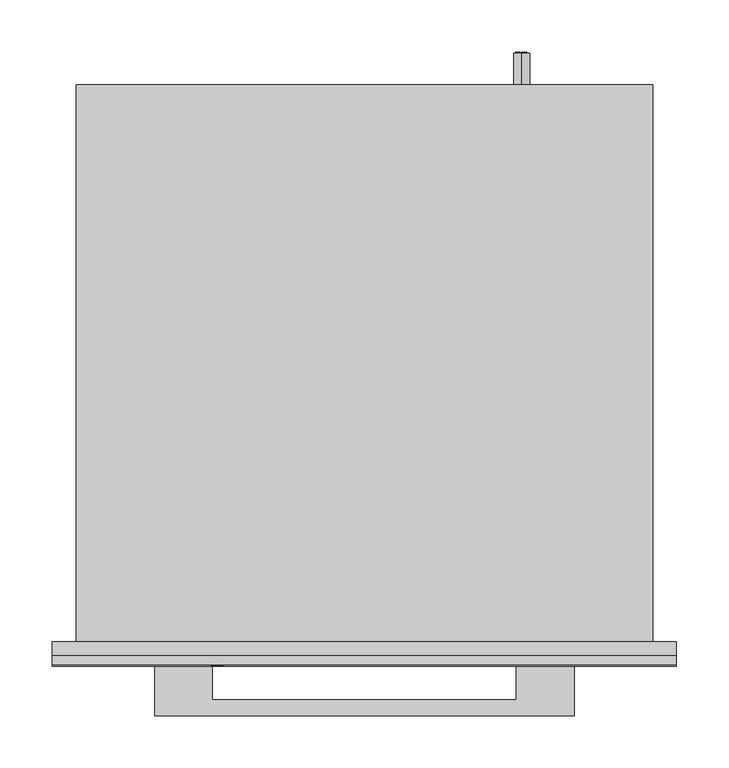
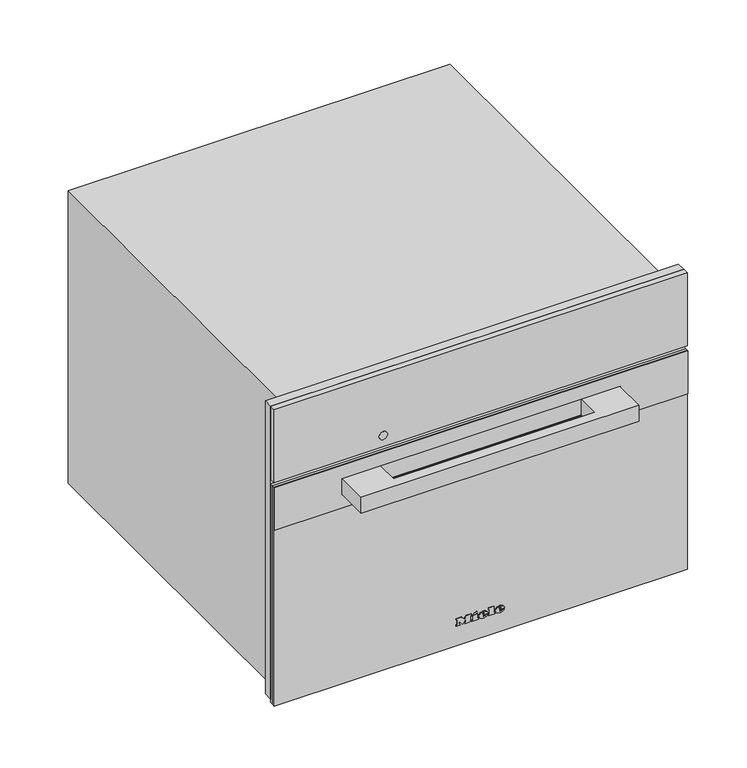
"""IFC4 building model written with IfcOpenShell, lengths in millimetres: proxy geometry, 11134580_I_DGM7640_EDST-CLST : 23764044_I_11134580_DGM7640_EDST-CLST."""

from ifc_helpers import new_model, si_unit, point, frame, frame_2d, origin, place, context, project, spatial, polyline, circle_curve, ellipse_curve, trimmed, segment, composite_curve, outline, extrude, faceted_brep, source, transform, mapped, element, save
from ifc_brep_helpers import plane_surface, cylinder_surface, revolved_surface, extruded_surface, advanced_brep


def specialty_equipment_aa93c1d3(model_context):
    return source(origin(), model_context, "Body", "SolidModel", [
        extrude(outline(polyline([(455.0, 297.5), (455.0, -297.5), (9.0, -297.5), (9.0, -272.5), (344.0, -272.5), (344.0, 272.5), (9.0, 272.5), (9.0, 297.5), (455.0, 297.5)])), frame((0.0, -13.0, 0.0), z_axis=(0.0, 1.0, 0.0), x_axis=(0.0, 0.0, 1.0)), (0.0, 0.0, 1.0), 13.0),
        advanced_brep(
        [(150.0, 561.0, 410.5), (150.0, 561.0, 395.5), (144.4098301, 561.0, 398.0), (148.5, 561.0, 398.0), (148.5, 561.0, 408.0), (147.4955303, 561.0, 408.0), (147.4955303, 561.0, 399.0), (144.0315043, 561.0, 399.0), (144.0315043, 561.0, 398.4582978), (155.0, 561.0, 398.0), (155.0, 561.0, 408.0), (150.0, 561.0, 408.0), (150.0, 561.0, 407.0), (154.0, 561.0, 407.0), (154.0, 561.0, 403.5), (151.0, 561.0, 403.5), (151.0, 561.0, 402.5), (154.0, 561.0, 402.5), (154.0, 561.0, 399.0), (150.0, 561.0, 399.0), (150.0, 561.0, 398.0), (150.0, 531.0, 395.5), (150.0, 531.0, 410.5), (155.0, 562.0, 408.0), (155.0, 562.0, 398.0), (150.0, 562.0, 398.0), (150.0, 562.0, 399.0), (154.0, 562.0, 399.0), (154.0, 562.0, 402.5), (151.0, 562.0, 402.5), (151.0, 562.0, 403.5), (154.0, 562.0, 403.5), (154.0, 562.0, 407.0), (150.0, 562.0, 407.0), (150.0, 562.0, 408.0), (148.5, 562.0, 398.0), (144.0315043, 562.0, 398.0), (144.0315043, 562.0, 399.0), (147.4955303, 562.0, 399.0), (147.4955303, 562.0, 408.0), (148.5, 562.0, 408.0), (144.0315043, 561.0, 398.0)],
        [
            (0, 1, circle_curve(frame((150.0, 561.0, 403.0), z_axis=(0.0, 1.0, 0.0), x_axis=(0.0, 0.0, 1.0)), 7.5)),
            (1, 2, circle_curve(frame((150.0, 561.0, 403.0), z_axis=(0.0, 1.0, 0.0), x_axis=(0.0, 0.0, 1.0)), 7.5)),
            (2, 3),
            (3, 4),
            (4, 5),
            (5, 6),
            (6, 7),
            (7, 8),
            (8, 0, circle_curve(frame((150.0, 561.0, 403.0), z_axis=(0.0, 1.0, 0.0), x_axis=(0.0, 0.0, 1.0)), 7.5)),
            (9, 10),
            (10, 11),
            (11, 12),
            (12, 13),
            (13, 14),
            (14, 15),
            (15, 16),
            (16, 17),
            (17, 18),
            (18, 19),
            (19, 20),
            (20, 9),
            (21, 22, circle_curve(frame((150.0, 531.0, 403.0), z_axis=(0.0, -1.0, 0.0), x_axis=(0.0, 0.0, 1.0)), 7.5)),
            (22, 21, circle_curve(frame((150.0, 531.0, 403.0), z_axis=(0.0, -1.0, 0.0), x_axis=(0.0, 0.0, 1.0)), 7.5)),
            (0, 22),
            (21, 1),
            (8, 2, circle_curve(frame((150.0, 561.0, 403.0), z_axis=(0.0, -1.0, 0.0), x_axis=(0.0, 0.0, 1.0)), 7.5)),
            (23, 24),
            (24, 25),
            (25, 26),
            (26, 27),
            (27, 28),
            (28, 29),
            (29, 30),
            (30, 31),
            (31, 32),
            (32, 33),
            (33, 34),
            (34, 23),
            (35, 36),
            (36, 37),
            (37, 38),
            (38, 39),
            (39, 40),
            (40, 35),
            (8, 41),
            (41, 2),
            (23, 10),
            (9, 24),
            (20, 25),
            (19, 26),
            (18, 27),
            (17, 28),
            (16, 29),
            (15, 30),
            (14, 31),
            (13, 32),
            (12, 33),
            (11, 34),
            (35, 3),
            (41, 36),
            (7, 37),
            (6, 38),
            (5, 39),
            (4, 40),
        ],
        [
            plane_surface(frame((150.0, 561.0, 410.5), z_axis=(0.0, 1.0, 0.0), x_axis=(1.0, 0.0, 0.0))),
            plane_surface(frame((150.0, 531.0, 410.5), z_axis=(0.0, -1.0, 0.0), x_axis=(-1.0, 0.0, 0.0))),
            cylinder_surface(frame((150.0, 561.0, 403.0), z_axis=(0.0, -1.0, 0.0), x_axis=(0.0, 0.0, 1.0)), 7.5),
            plane_surface(frame((155.0, 562.0, 408.0), z_axis=(0.0, 1.0, 0.0), x_axis=(0.0, 0.0, -1.0))),
            plane_surface(frame((155.0, 561.0, 408.0), z_axis=(0.0, -1.0, 0.0), x_axis=(0.0, 0.0, 1.0))),
            plane_surface(frame((155.0, 562.0, 408.0), z_axis=(1.0, 0.0, 0.0), x_axis=(0.0, -1.0, 0.0))),
            plane_surface(frame((155.0, 562.0, 398.0), z_axis=(0.0, 0.0, -1.0), x_axis=(0.0, -1.0, 0.0))),
            plane_surface(frame((150.0, 562.0, 398.0), z_axis=(-1.0, 0.0, 0.0), x_axis=(0.0, -1.0, 0.0))),
            plane_surface(frame((150.0, 562.0, 399.0), z_axis=(0.0, 0.0, 1.0), x_axis=(0.0, -1.0, 0.0))),
            plane_surface(frame((154.0, 562.0, 399.0), z_axis=(-1.0, 0.0, 0.0), x_axis=(0.0, -1.0, 0.0))),
            plane_surface(frame((154.0, 562.0, 402.5), z_axis=(0.0, 0.0, -1.0), x_axis=(0.0, -1.0, 0.0))),
            plane_surface(frame((151.0, 562.0, 402.5), z_axis=(-1.0, 0.0, 0.0), x_axis=(0.0, -1.0, 0.0))),
            plane_surface(frame((151.0, 562.0, 403.5), z_axis=(0.0, 0.0, 1.0), x_axis=(0.0, -1.0, 0.0))),
            plane_surface(frame((154.0, 562.0, 403.5), z_axis=(-1.0, 0.0, 0.0), x_axis=(0.0, -1.0, 0.0))),
            plane_surface(frame((154.0, 562.0, 407.0), z_axis=(0.0, 0.0, -1.0), x_axis=(0.0, -1.0, 0.0))),
            plane_surface(frame((150.0, 562.0, 407.0), z_axis=(-1.0, 0.0, 0.0), x_axis=(0.0, -1.0, 0.0))),
            plane_surface(frame((150.0, 562.0, 408.0), z_axis=(0.0, 0.0, 1.0), x_axis=(0.0, -1.0, 0.0))),
            plane_surface(frame((148.5, 562.0, 398.0), z_axis=(0.0, 0.0, -1.0), x_axis=(0.0, -1.0, 0.0))),
            plane_surface(frame((144.0315043, 562.0, 398.0), z_axis=(-1.0, 0.0, 0.0), x_axis=(0.0, -1.0, 0.0))),
            plane_surface(frame((144.0315043, 562.0, 399.0), z_axis=(0.0, 0.0, 1.0), x_axis=(0.0, -1.0, 0.0))),
            plane_surface(frame((147.4955303, 562.0, 399.0), z_axis=(-1.0, 0.0, 0.0), x_axis=(0.0, -1.0, 0.0))),
            plane_surface(frame((147.4955303, 562.0, 408.0), z_axis=(0.0, 0.0, 1.0), x_axis=(0.0, -1.0, 0.0))),
            plane_surface(frame((148.5, 562.0, 408.0), z_axis=(1.0, 0.0, 0.0), x_axis=(0.0, -1.0, 0.0))),
        ],
        [
            (0, [[1, 2, 3, 4, 5, 6, 7, 8, 9], [10, 11, 12, 13, 14, 15, 16, 17, 18, 19, 20, 21]]),
            (1, [[22, 23]]),
            (2, [[-1, 24, -22, 25]]),
            (2, [[-23, -24, -9, 26, -2, -25]]),
            (3, [[27, 28, 29, 30, 31, 32, 33, 34, 35, 36, 37, 38]]),
            (3, [[39, 40, 41, 42, 43, 44]]),
            (4, [[45, 46, -26]]),
            (5, [[-27, 47, -10, 48]]),
            (6, [[-28, -48, -21, 49]]),
            (7, [[-29, -49, -20, 50]]),
            (8, [[-30, -50, -19, 51]]),
            (9, [[-31, -51, -18, 52]]),
            (10, [[-32, -52, -17, 53]]),
            (11, [[-33, -53, -16, 54]]),
            (12, [[-34, -54, -15, 55]]),
            (13, [[-35, -55, -14, 56]]),
            (14, [[-36, -56, -13, 57]]),
            (15, [[-37, -57, -12, 58]]),
            (16, [[-38, -58, -11, -47]]),
            (17, [[-39, 59, -3, -46, 60]]),
            (18, [[-40, -60, -45, -8, 61]]),
            (19, [[-41, -61, -7, 62]]),
            (20, [[-42, -62, -6, 63]]),
            (21, [[-43, -63, -5, 64]]),
            (22, [[-44, -64, -4, -59]]),
        ],
    ),
        faceted_brep([(275.0, 531.0, 445.0), (275.0, 531.0, 0.0), (-275.0, 531.0, 0.0), (-275.0, 531.0, 445.0), (275.0, 0.0, 445.0), (-275.0, 0.0, 445.0), (-275.0, 0.0, 0.0), (275.0, 0.0, 0.0), (-272.5, 0.0, 344.0), (272.5, 0.0, 344.0), (272.5, 0.0, 8.0), (-272.5, 0.0, 8.0), (272.5, 12.0, 344.0), (-272.5, 12.0, 344.0), (-272.5, 12.0, 8.0), (272.5, 12.0, 8.0), (161.0, 12.0, 286.0), (161.0, 12.0, 58.0), (-220.0, 12.0, 58.0), (-220.0, 12.0, 286.0), (161.0, 419.0, 286.0), (-220.0, 419.0, 286.0), (-220.0, 419.0, 58.0), (161.0, 419.0, 58.0)], [[[0, 1, 2, 3]], [[4, 5, 6, 7], [8, 9, 10, 11]], [[0, 3, 5, 4]], [[3, 2, 6, 5]], [[2, 1, 7, 6]], [[1, 0, 4, 7]], [[12, 13, 14, 15], [16, 17, 18, 19]], [[13, 12, 9, 8]], [[14, 13, 8, 11]], [[15, 14, 11, 10]], [[12, 15, 10, 9]], [[20, 21, 22, 23]], [[20, 23, 17, 16]], [[23, 22, 18, 17]], [[22, 21, 19, 18]], [[21, 20, 16, 19]]]),
        advanced_brep(
        [(26.2998, -23.0, 36.7018), (26.2998, -23.0, 37.8532), (33.9264, -23.0, 37.8532), (20.6568, -23.0, 37.8532), (23.7918, -23.0, 34.0), (33.7326, -23.0, 36.7018), (30.2898, -23.0, 36.7018), (27.5766, -23.0, 35.425), (26.2998, -23.0, 39.3124), (26.2998, -23.0, 40.555), (28.2492, -23.0, 40.555), (28.2492, -23.0, 39.3124), (26.2998, -22.0, 36.7018), (27.5766, -22.0, 35.425), (30.2898, -22.0, 36.7018), (33.7326, -22.0, 36.7018), (23.7918, -22.0, 34.0), (20.6568, -22.0, 37.8532), (33.9264, -22.0, 37.8532), (26.2998, -22.0, 37.8532), (26.2998, -22.0, 39.3124), (28.2492, -22.0, 39.3124), (28.2492, -22.0, 40.555), (26.2998, -22.0, 40.555)],
        [
            (0, 1),
            (1, 2),
            (2, 3, ellipse_curve(frame((27.2916, -23.0, 37.8532), z_axis=(0.0, -1.0, 0.0), x_axis=(-1.0, 0.0, 0.0)), 6.6348, 5.4834)),
            (3, 4, circle_curve(frame((25.0686622, -23.0, 38.2408), z_axis=(0.0, -1.0, 0.0), x_axis=(0.0, 0.0, -1.0)), 4.4288556)),
            (4, 5, circle_curve(frame((27.1587808, -23.0, 41.2504), z_axis=(0.0, -1.0, 0.0), x_axis=(0.0, 0.0, -1.0)), 7.9940516)),
            (5, 6),
            (6, 7, circle_curve(frame((28.1338588, -23.0, 37.762), z_axis=(0.0, 1.0, 0.0), x_axis=(0.0, 0.0, -1.0)), 2.4025208)),
            (7, 0, circle_curve(frame((27.5766, -23.0, 36.7018), z_axis=(0.0, 1.0, 0.0), x_axis=(0.0, 0.0, -1.0)), 1.2768)),
            (8, 9),
            (9, 10, circle_curve(frame((27.2745, -23.0, 40.555), z_axis=(0.0, 1.0, 0.0), x_axis=(0.0, 0.0, -1.0)), 0.9747)),
            (10, 11),
            (11, 8),
            (12, 13, circle_curve(frame((27.5766, -22.0, 36.7018), z_axis=(0.0, -1.0, 0.0), x_axis=(0.0, 0.0, -1.0)), 1.2768)),
            (13, 14, circle_curve(frame((28.1338588, -22.0, 37.762), z_axis=(0.0, -1.0, 0.0), x_axis=(0.0, 0.0, -1.0)), 2.4025208)),
            (14, 15),
            (15, 16, circle_curve(frame((27.1587808, -22.0, 41.2504), z_axis=(0.0, 1.0, 0.0), x_axis=(0.0, 0.0, -1.0)), 7.9940516)),
            (16, 17, circle_curve(frame((25.0686622, -22.0, 38.2408), z_axis=(0.0, 1.0, 0.0), x_axis=(0.0, 0.0, -1.0)), 4.4288556)),
            (17, 18, ellipse_curve(frame((27.2916, -22.0, 37.8532), z_axis=(0.0, 1.0, 0.0), x_axis=(-1.0, 0.0, 0.0)), 6.6348, 5.4834)),
            (18, 19),
            (19, 12),
            (20, 21),
            (21, 22),
            (22, 23, circle_curve(frame((27.2745, -22.0, 40.555), z_axis=(0.0, -1.0, 0.0), x_axis=(0.0, 0.0, -1.0)), 0.9747)),
            (23, 20),
            (0, 12),
            (19, 1),
            (18, 2),
            (5, 15),
            (14, 6),
            (17, 3),
            (13, 7),
            (16, 4),
            (8, 20),
            (23, 9),
            (22, 10),
            (21, 11),
        ],
        [
            plane_surface(frame((26.2998, -23.0, 37.8532), z_axis=(0.0, -1.0, 0.0), x_axis=(0.0, 0.0, 1.0))),
            plane_surface(frame((26.2998, -22.0, 37.8532), z_axis=(0.0, 1.0, 0.0), x_axis=(0.0, 0.0, -1.0))),
            plane_surface(frame((26.2998, -23.0, 36.7018), z_axis=(1.0, 0.0, 0.0), x_axis=(0.0, 1.0, 0.0))),
            plane_surface(frame((26.2998, -23.0, 37.8532), z_axis=(0.0, 0.0, -1.0), x_axis=(0.0, 1.0, 0.0))),
            plane_surface(frame((33.7326, -23.0, 36.7018), z_axis=(0.0, 0.0, 1.0), x_axis=(0.0, 1.0, 0.0))),
            extruded_surface(trimmed(ellipse_curve(frame((27.2916, -21.0, 37.8532), z_axis=(0.0, -1.0, 0.0), x_axis=(-1.0, 0.0, 0.0)), 6.6348, 5.4834), [point((33.9264, -21.0, 37.8532))], [point((20.6568, -21.0, 37.8532))], True, "CARTESIAN"), (0.0, -1.0, 0.0), 1.0),
            revolved_surface(polyline([(28.1338588, -22.0, 35.3594792), (28.1338588, -23.0, 35.3594792)]), (28.1338588, -22.0, 37.762), (0.0, 1.0, 0.0)),
            revolved_surface(polyline([(27.5766, -22.0, 35.425), (27.5766, -23.0, 35.425)]), (27.5766, -22.0, 36.7018), (0.0, 1.0, 0.0)),
            cylinder_surface(frame((25.0686622, -22.0, 38.2408), z_axis=(0.0, -1.0, 0.0), x_axis=(0.0, 0.0, -1.0)), 4.4288556),
            cylinder_surface(frame((27.1587808, -22.0, 41.2504), z_axis=(0.0, -1.0, 0.0), x_axis=(0.0, 0.0, -1.0)), 7.9940516),
            plane_surface(frame((26.2998, -23.0, 39.3124), z_axis=(1.0, 0.0, 0.0), x_axis=(0.0, 1.0, 0.0))),
            revolved_surface(polyline([(27.2745, -22.0, 39.5803), (27.2745, -23.0, 39.5803)]), (27.2745, -22.0, 40.555), (0.0, 1.0, 0.0)),
            plane_surface(frame((28.2492, -23.0, 40.555), z_axis=(-1.0, 0.0, 0.0), x_axis=(0.0, 1.0, 0.0))),
            plane_surface(frame((28.2492, -23.0, 39.3124), z_axis=(0.0, 0.0, 1.0), x_axis=(0.0, 1.0, 0.0))),
        ],
        [
            (0, [[1, 2, 3, 4, 5, 6, 7, 8], [9, 10, 11, 12]]),
            (1, [[13, 14, 15, 16, 17, 18, 19, 20], [21, 22, 23, 24]]),
            (2, [[-1, 25, -20, 26]]),
            (3, [[-2, -26, -19, 27]]),
            (4, [[-6, 28, -15, 29]]),
            (5, [[-3, -27, -18, 30]]),
            (6, [[-7, -29, -14, 31]]),
            (7, [[-8, -31, -13, -25]]),
            (8, [[-4, -30, -17, 32]]),
            (9, [[-5, -32, -16, -28]]),
            (10, [[-9, 33, -24, 34]]),
            (11, [[-10, -34, -23, 35]]),
            (12, [[-11, -35, -22, 36]]),
            (13, [[-12, -36, -21, -33]]),
        ],
    ),
        advanced_brep(
        [(2.508, -23.0, 36.7018), (2.508, -23.0, 37.8532), (10.1346, -23.0, 37.8532), (-3.135, -23.0, 37.8532), (0.0, -23.0, 34.0), (9.9408, -23.0, 36.7018), (6.498, -23.0, 36.7018), (3.7848, -23.0, 35.425), (2.508, -23.0, 39.3124), (2.508, -23.0, 40.555), (4.4574, -23.0, 40.555), (4.4574, -23.0, 39.3124), (2.508, -22.0, 36.7018), (3.7848, -22.0, 35.425), (6.498, -22.0, 36.7018), (9.9408, -22.0, 36.7018), (0.0, -22.0, 34.0), (-3.135, -22.0, 37.8532), (10.1346, -22.0, 37.8532), (2.508, -22.0, 37.8532), (2.508, -22.0, 39.3124), (4.4574, -22.0, 39.3124), (4.4574, -22.0, 40.555), (2.508, -22.0, 40.555)],
        [
            (0, 1),
            (1, 2),
            (2, 3, ellipse_curve(frame((3.4998, -23.0, 37.8532), z_axis=(0.0, -1.0, 0.0), x_axis=(-1.0, 0.0, 0.0)), 6.6348, 5.4834)),
            (3, 4, circle_curve(frame((1.2768622, -23.0, 38.2408), z_axis=(0.0, -1.0, 0.0), x_axis=(0.0, 0.0, -1.0)), 4.4288556)),
            (4, 5, circle_curve(frame((3.3669808, -23.0, 41.2504), z_axis=(0.0, -1.0, 0.0), x_axis=(0.0, 0.0, -1.0)), 7.9940516)),
            (5, 6),
            (6, 7, circle_curve(frame((4.3420588, -23.0, 37.762), z_axis=(0.0, 1.0, 0.0), x_axis=(0.0, 0.0, -1.0)), 2.4025208)),
            (7, 0, circle_curve(frame((3.7848, -23.0, 36.7018), z_axis=(0.0, 1.0, 0.0), x_axis=(0.0, 0.0, -1.0)), 1.2768)),
            (8, 9),
            (9, 10, circle_curve(frame((3.4827, -23.0, 40.555), z_axis=(0.0, 1.0, 0.0), x_axis=(0.0, 0.0, -1.0)), 0.9747)),
            (10, 11),
            (11, 8),
            (12, 13, circle_curve(frame((3.7848, -22.0, 36.7018), z_axis=(0.0, -1.0, 0.0), x_axis=(0.0, 0.0, -1.0)), 1.2768)),
            (13, 14, circle_curve(frame((4.3420588, -22.0, 37.762), z_axis=(0.0, -1.0, 0.0), x_axis=(0.0, 0.0, -1.0)), 2.4025208)),
            (14, 15),
            (15, 16, circle_curve(frame((3.3669808, -22.0, 41.2504), z_axis=(0.0, 1.0, 0.0), x_axis=(0.0, 0.0, -1.0)), 7.9940516)),
            (16, 17, circle_curve(frame((1.2768622, -22.0, 38.2408), z_axis=(0.0, 1.0, 0.0), x_axis=(0.0, 0.0, -1.0)), 4.4288556)),
            (17, 18, ellipse_curve(frame((3.4998, -22.0, 37.8532), z_axis=(0.0, 1.0, 0.0), x_axis=(-1.0, 0.0, 0.0)), 6.6348, 5.4834)),
            (18, 19),
            (19, 12),
            (20, 21),
            (21, 22),
            (22, 23, circle_curve(frame((3.4827, -22.0, 40.555), z_axis=(0.0, -1.0, 0.0), x_axis=(0.0, 0.0, -1.0)), 0.9747)),
            (23, 20),
            (0, 12),
            (19, 1),
            (18, 2),
            (5, 15),
            (14, 6),
            (17, 3),
            (13, 7),
            (16, 4),
            (8, 20),
            (23, 9),
            (22, 10),
            (21, 11),
        ],
        [
            plane_surface(frame((2.508, -23.0, 37.8532), z_axis=(0.0, -1.0, 0.0), x_axis=(0.0, 0.0, 1.0))),
            plane_surface(frame((2.508, -22.0, 37.8532), z_axis=(0.0, 1.0, 0.0), x_axis=(0.0, 0.0, -1.0))),
            plane_surface(frame((2.508, -23.0, 36.7018), z_axis=(1.0, 0.0, 0.0), x_axis=(0.0, 1.0, 0.0))),
            plane_surface(frame((2.508, -23.0, 37.8532), z_axis=(0.0, 0.0, -1.0), x_axis=(0.0, 1.0, 0.0))),
            plane_surface(frame((9.9408, -23.0, 36.7018), z_axis=(0.0, 0.0, 1.0), x_axis=(0.0, 1.0, 0.0))),
            extruded_surface(trimmed(ellipse_curve(frame((3.4998, -21.0, 37.8532), z_axis=(0.0, -1.0, 0.0), x_axis=(-1.0, 0.0, 0.0)), 6.6348, 5.4834), [point((10.1346, -21.0, 37.8532))], [point((-3.135, -21.0, 37.8532))], True, "CARTESIAN"), (0.0, -1.0, 0.0), 1.0),
            revolved_surface(polyline([(4.3420588, -22.0, 35.3594792), (4.3420588, -23.0, 35.3594792)]), (4.3420588, -22.0, 37.762), (0.0, 1.0, 0.0)),
            revolved_surface(polyline([(3.7848, -22.0, 35.425), (3.7848, -23.0, 35.425)]), (3.7848, -22.0, 36.7018), (0.0, 1.0, 0.0)),
            cylinder_surface(frame((1.2768622, -22.0, 38.2408), z_axis=(0.0, -1.0, 0.0), x_axis=(0.0, 0.0, -1.0)), 4.4288556),
            cylinder_surface(frame((3.3669808, -22.0, 41.2504), z_axis=(0.0, -1.0, 0.0), x_axis=(0.0, 0.0, -1.0)), 7.9940516),
            plane_surface(frame((2.508, -23.0, 39.3124), z_axis=(1.0, 0.0, 0.0), x_axis=(0.0, 1.0, 0.0))),
            revolved_surface(polyline([(3.4827, -22.0, 39.5803), (3.4827, -23.0, 39.5803)]), (3.4827, -22.0, 40.555), (0.0, 1.0, 0.0)),
            plane_surface(frame((4.4574, -23.0, 40.555), z_axis=(-1.0, 0.0, 0.0), x_axis=(0.0, 1.0, 0.0))),
            plane_surface(frame((4.4574, -23.0, 39.3124), z_axis=(0.0, 0.0, 1.0), x_axis=(0.0, 1.0, 0.0))),
        ],
        [
            (0, [[1, 2, 3, 4, 5, 6, 7, 8], [9, 10, 11, 12]]),
            (1, [[13, 14, 15, 16, 17, 18, 19, 20], [21, 22, 23, 24]]),
            (2, [[-1, 25, -20, 26]]),
            (3, [[-2, -26, -19, 27]]),
            (4, [[-6, 28, -15, 29]]),
            (5, [[-3, -27, -18, 30]]),
            (6, [[-7, -29, -14, 31]]),
            (7, [[-8, -31, -13, -25]]),
            (8, [[-4, -30, -17, 32]]),
            (9, [[-5, -32, -16, -28]]),
            (10, [[-9, 33, -24, 34]]),
            (11, [[-10, -34, -23, 35]]),
            (12, [[-11, -35, -22, 36]]),
            (13, [[-12, -36, -21, -33]]),
        ],
    ),
        extrude(outline(polyline([(44.7274, -9.9522), (42.8806, -9.0858), (44.6818, -5.2212), (46.5286, -6.0762), (44.7274, -9.9522)])), frame((0.0, -23.0, 0.0), z_axis=(0.0, 1.0, 0.0), x_axis=(0.0, 0.0, 1.0)), (0.0, 0.0, 1.0), 1.0),
        extrude(outline(polyline([(42.6298, -12.768), (40.5892, -12.768), (40.5892, -11.4114), (35.9152, -11.4114), (35.9152, -12.768), (34.0, -12.768), (34.0, -3.7734), (35.9152, -3.7734), (35.9152, -5.0958), (42.6298, -5.0958), (42.6298, -12.768)])), frame((0.0, -23.0, 0.0), z_axis=(0.0, 1.0, 0.0), x_axis=(0.0, 0.0, 1.0)), (0.0, 0.0, 1.0), 1.0),
        extrude(outline(polyline([(43.5418, 10.773), (43.5418, 12.141), (35.9152, 12.141), (35.9152, 10.773), (34.0, 10.773), (34.0, 20.0184), (35.9152, 20.0184), (35.9152, 18.6162), (45.4, 18.6162), (45.4, 10.773), (43.5418, 10.773)])), frame((0.0, -23.0, 0.0), z_axis=(0.0, 1.0, 0.0), x_axis=(0.0, 0.0, 1.0)), (0.0, 0.0, 1.0), 1.0),
        extrude(outline(polyline([(43.5418, -35.4882), (43.5418, -34.1088), (35.9152, -34.1088), (35.9152, -35.4882), (34.0, -35.4882), (34.0, -30.4722), (35.9152, -30.4722), (35.9152, -31.8402), (40.7429247, -31.8402), (34.0, -26.7444), (40.9402223, -21.6258), (35.9152, -21.6258), (35.9152, -23.028), (34.0, -23.028), (34.0, -13.9308), (35.9152, -13.9308), (35.9152, -15.3786), (43.5418, -15.3786), (43.5418, -13.9308), (45.4, -13.9308), (45.4, -20.8734), (41.125, -24.2022), (45.4, -27.5424), (45.4, -35.4882), (43.5418, -35.4882)])), frame((0.0, -23.0, 0.0), z_axis=(0.0, 1.0, 0.0), x_axis=(0.0, 0.0, 1.0)), (0.0, 0.0, 1.0), 1.0),
        extrude(outline(polyline([(297.5, -22.0), (-297.5, -22.0), (-297.5, -13.0), (297.5, -13.0), (297.5, -22.0)])), frame((0.0, 0.0, 344.0), z_axis=(0.0, 0.0, 1.0), x_axis=(1.0, 0.0, 0.0)), (0.0, 0.0, 1.0), 111.0),
        extrude(outline(composite_curve([segment(trimmed(circle_curve(frame_2d((361.0, -140.5745637)), 6.0), [point((361.0, -146.5745637))], [point((361.0, -134.5745637))], False, "CARTESIAN"), True, "CONTINUOUS"), segment(trimmed(circle_curve(frame_2d((361.0, -140.5745637)), 6.0), [point((361.0, -134.5745637))], [point((361.0, -146.5745637))], False, "CARTESIAN"), True, "CONTINUOUS")], self_intersect=False)), frame((0.0, -22.5, 0.0), z_axis=(0.0, 1.0, 0.0), x_axis=(0.0, 0.0, 1.0)), (0.0, 0.0, 1.0), 1.0),
        extrude(outline(polyline([(337.0, 297.5), (337.0, -297.5), (272.0, -297.5), (272.0, 297.5), (337.0, 297.5)]), holes=[polyline([(317.0, -200.5), (317.0, 200.5), (292.0, 200.5), (292.0, -200.5), (317.0, -200.5)])]), frame((0.0, -23.3, 0.0), z_axis=(0.0, 1.0, 0.0), x_axis=(0.0, 0.0, 1.0)), (0.0, 0.0, 1.0), 1.3),
        extrude(outline(polyline([(-200.0, -70.3), (-200.0, -22.0), (-145.0, -22.0), (-145.0, -55.3), (145.0, -55.3), (145.0, -22.0), (200.0, -22.0), (200.0, -70.3), (-200.0, -70.3)])), frame((0.0, 0.0, 292.5), z_axis=(0.0, 0.0, 1.0), x_axis=(1.0, 0.0, 0.0)), (0.0, 0.0, 1.0), 24.0),
        extrude(outline(polyline([(-297.5, -18.0), (297.5, -18.0), (297.5, -22.0), (-297.5, -22.0), (-297.5, -18.0)])), frame((0.0, 0.0, 4.0), z_axis=(0.0, 0.0, 1.0), x_axis=(1.0, 0.0, 0.0)), (0.0, 0.0, 1.0), 333.0),
        extrude(outline(polyline([(297.5, -18.0), (-297.5, -18.0), (-297.5, -13.0), (297.5, -13.0), (297.5, -18.0)])), frame((0.0, 0.0, 4.0), z_axis=(0.0, 0.0, 1.0), x_axis=(1.0, 0.0, 0.0)), (0.0, 0.0, 1.0), 333.0),
    ])


if __name__ == "__main__":
    model = new_model("IFC4")
    model_context = context("Model", 3, world=origin())
    ifc_project = project(units=[si_unit("LENGTHUNIT", "METRE", prefix="MILLI")], contexts=[model_context])
    site = spatial("IfcSite", under=ifc_project)
    building = spatial("IfcBuilding", under=site)
    placement = place(None, origin())
    specialty_equipment_shape = specialty_equipment_aa93c1d3(model_context)
    element("IfcBuildingElementProxy", 1, Name="11134580_I_DGM7640_EDST-CLST : 23764044_I_11134580_DGM7640_EDST-CLST", ObjectType="11134580_I_DGM7640_EDST-CLST : 23764044_I_11134580_DGM7640_EDST-CLST", at=placement, inside=building, context=model_context, shape_type="MappedRepresentation", body=[
        mapped(specialty_equipment_shape, transform((0.0, 0.0, 0.0), x_axis=(1.0, 0.0, 0.0), y_axis=(0.0, 1.0, 0.0), z_axis=(0.0, 0.0, 1.0))),
    ])
    save(model, "model.ifc")
